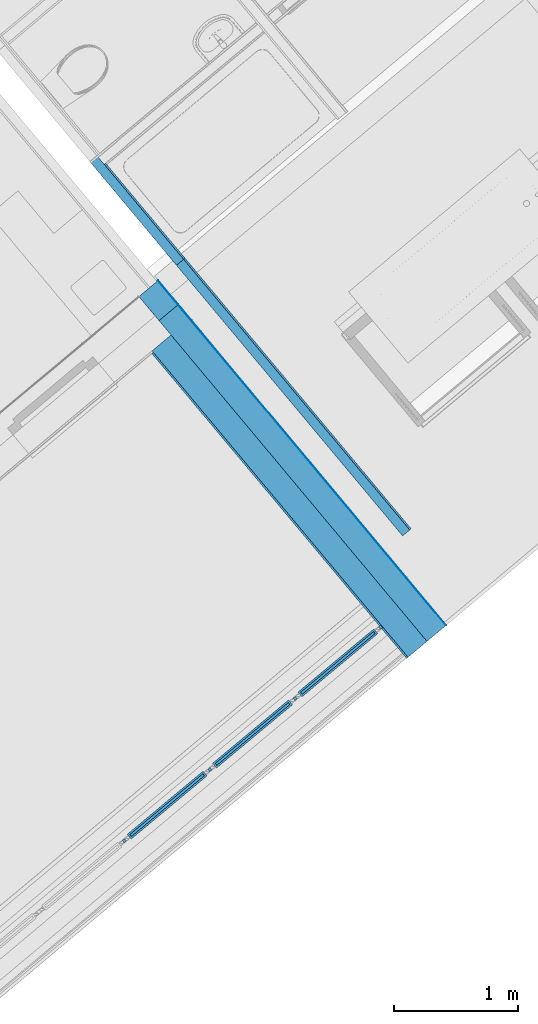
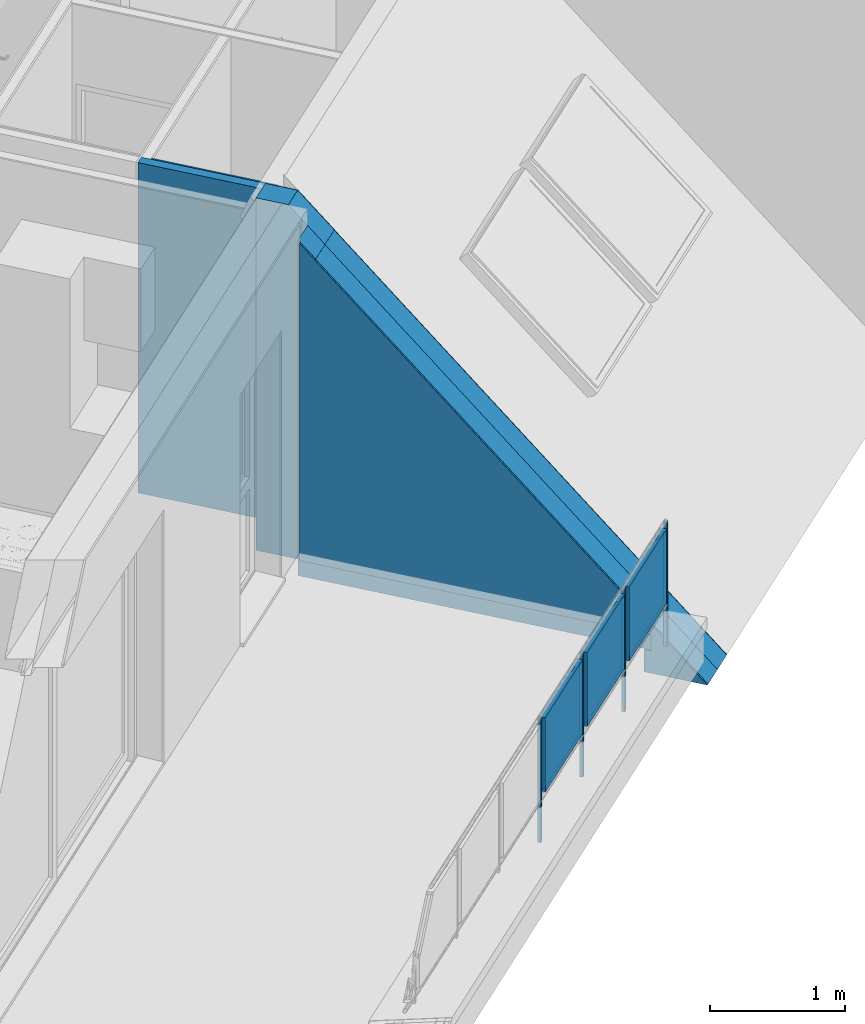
# One storey, part 16 of 47: 16 building element parts, 3 elements without a shape of their own.
"""IFC4 building model written with IfcOpenShell, lengths in metres."""

from ifc_helpers import new_model, entity, si_unit, converted_unit, derived_unit, direction, frame, origin_with_axes, place, context, subcontext, project, spatial, polygons, material, type_object, element, aggregate, save


model = new_model("IFC4")

# Units and contexts
model_context = context("Model", 3, precision=1e-05, world=origin_with_axes(), true_north=direction((0.0, 1.0)))
body_context = subcontext(model_context, "Body", "Model", "MODEL_VIEW")
ifc_project = project(units=[si_unit("LENGTHUNIT", "METRE"), si_unit("AREAUNIT", "SQUARE_METRE"), si_unit("VOLUMEUNIT", "CUBIC_METRE"), converted_unit("PLANEANGLEUNIT", "DEGREE", entity("IfcPlaneAngleMeasure", 0.0174532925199), si_unit("PLANEANGLEUNIT", "RADIAN"), dimensions=[0, 0, 0, 0, 0, 0, 0]), converted_unit("TIMEUNIT", "Year", entity("IfcTimeMeasure", 31556926.0), si_unit("TIMEUNIT", "SECOND"), dimensions=[0, 0, 1, 0, 0, 0, 0]), si_unit("MASSUNIT", "GRAM", prefix="KILO"), si_unit("THERMODYNAMICTEMPERATUREUNIT", "DEGREE_CELSIUS"), si_unit("LUMINOUSINTENSITYUNIT", "LUMEN"), si_unit("ENERGYUNIT", "JOULE", prefix="MEGA"), derived_unit("THERMALCONDUCTANCEUNIT", [(si_unit("POWERUNIT", "WATT"), 1), (si_unit("LENGTHUNIT", "METRE"), -1), (si_unit("THERMODYNAMICTEMPERATUREUNIT", "KELVIN"), -1)]), derived_unit("SPECIFICHEATCAPACITYUNIT", [(si_unit("ENERGYUNIT", "JOULE"), 1), (si_unit("MASSUNIT", "GRAM", prefix="KILO"), -1), (si_unit("THERMODYNAMICTEMPERATUREUNIT", "KELVIN"), -1)]), derived_unit("MASSDENSITYUNIT", [(si_unit("MASSUNIT", "GRAM", prefix="KILO"), 1), (si_unit("VOLUMEUNIT", "CUBIC_METRE"), -1)])], contexts=[model_context])

# Site, building, storey
site_placement = place(None, frame((-0.00153261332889, -0.00661245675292, 0.0), z_axis=(0.0, 0.0, 1.0), x_axis=(1.0, 0.0, 0.0)))
site = spatial("IfcSite", under=ifc_project, at=site_placement, Name="Site", CompositionType="ELEMENT")
building_placement = place(site_placement, origin_with_axes())
building = spatial("IfcBuilding", under=site, at=building_placement, Name="Building", CompositionType="ELEMENT")
storey_placement = place(building_placement, frame((0.0, 0.0, 8.66), z_axis=(0.0, 0.0, 1.0), x_axis=(1.0, 0.0, 0.0)))
storey = spatial("IfcBuildingStorey", under=building, at=storey_placement, Name="DG2", CompositionType="ELEMENT", Elevation=8.66)

# Wall, building element parts
wall_type_1 = type_object("IfcWallType", Name="AW EG 420", PredefinedType="NOTDEFINED")
wall_1_placement = place(storey_placement, frame((2.45868563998, 17.3922711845, -0.2), z_axis=(0.0, 0.0, 1.0), x_axis=(0.641214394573, -0.76736177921, 0.0)))
wall_1 = element("IfcWall", 1, at=wall_1_placement, inside=storey, type_object=wall_type_1, Name="Wand-002", PredefinedType="NOTDEFINED")
ifc_material_1 = material(Name="Zementputz")
building_element_part_1_placement = place(wall_1_placement, origin_with_axes())
building_element_part_1 = element("IfcBuildingElementPart", 2, at=building_element_part_1_placement, material=ifc_material_1, Name="Zementputz", PredefinedType="NOTDEFINED", context=body_context, shape_type="Tessellation", body=[
    polygons([(0.122189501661, 0.42, 3.0917140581), (0.122189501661, 0.42, 3.08944655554), (3.21163652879, 0.42, 0.0), (2.71272646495, 0.42, 0.0), (2.71272646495, 0.42, 0.2), (0.0, 0.42, 0.2), (-0.420270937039, 0.42, 0.2), (-0.420270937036, 0.42, 3.38), (-0.166096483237, 0.42, 3.38), (0.12219263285, 0.415, 3.09171365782), (0.12219263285, 0.415, 3.089446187), (3.21163929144, 0.415, 0.0), (2.71272968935, 0.415, 0.0), (2.71272968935, 0.415, 0.2), (0.0, 0.415, 0.2), (-0.420267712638, 0.415, 0.2), (-0.420267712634, 0.415, 3.38), (-0.166093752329, 0.415, 3.38)], [[[1, 2, 3, 4, 5, 6, 7, 8, 9]], [[2, 1, 10, 11]], [[12, 3, 2, 11]], [[3, 12, 13, 4]], [[4, 13, 14, 5]], [[5, 14, 15, 6]], [[15, 16, 7, 6]], [[16, 17, 8, 7]], [[8, 17, 18, 9]], [[10, 1, 9, 18]], [[11, 10, 18, 17, 16, 15, 14, 13, 12]]], closed=True),
])
ifc_material_2 = material(Name="Stahlbeton Wand")
building_element_part_2_placement = place(wall_1_placement, origin_with_axes())
building_element_part_2 = element("IfcBuildingElementPart", 3, at=building_element_part_2_placement, material=ifc_material_2, Name="Stahlbeton Wand", PredefinedType="NOTDEFINED", context=body_context, shape_type="Tessellation", body=[
    polygons([(0.12219263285, 0.415, 3.09171365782), (0.12219263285, 0.415, 3.089446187), (3.21163929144, 0.415, 0.0), (2.71272968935, 0.415, 0.0), (2.71272968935, 0.415, 0.2), (0.0, 0.415, 0.2), (-0.420267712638, 0.415, 0.2), (-0.420267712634, 0.415, 3.38), (-0.166093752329, 0.415, 3.38), (0.122317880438, 0.215, 3.09169764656), (0.122317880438, 0.215, 3.08943144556), (3.21174979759, 0.215, 0.0), (2.7128586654, 0.215, 0.0), (2.7128586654, 0.215, 0.2), (0.0, 0.215, 0.2), (-0.420138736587, 0.215, 0.2), (-0.420138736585, 0.215, 3.38), (-0.165984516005, 0.215, 3.38)], [[[1, 2, 3, 4, 5, 6, 7, 8, 9]], [[2, 1, 10, 11]], [[12, 3, 2, 11]], [[3, 12, 13, 4]], [[4, 13, 14, 5]], [[5, 14, 15, 6]], [[15, 16, 7, 6]], [[16, 17, 8, 7]], [[8, 17, 18, 9]], [[10, 1, 9, 18]], [[11, 10, 18, 17, 16, 15, 14, 13, 12]]], closed=True),
])
ifc_material_3 = material(Name="EPS 1")
building_element_part_3_placement = place(wall_1_placement, origin_with_axes())
building_element_part_3 = element("IfcBuildingElementPart", 4, at=building_element_part_3_placement, material=ifc_material_3, Name="EPS 1", PredefinedType="NOTDEFINED", context=body_context, shape_type="Tessellation", body=[
    polygons([(-0.165984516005, 0.215, 3.38), (-0.420138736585, 0.215, 3.38), (-0.420138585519, 0.214765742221, 3.38), (-0.165984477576, 0.214929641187, 3.38), (-0.0568807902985, 0.215, 3.27089629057), (-0.0568807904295, 0.215, 0.2), (-0.420138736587, 0.215, 0.2), (-0.420138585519, 0.214765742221, 0.2)], [[[1, 2, 3, 4]], [[2, 1, 5, 6, 7]], [[7, 8, 3, 2]], [[8, 6, 5, 4, 3]], [[4, 5, 1]], [[7, 6, 8]]], closed=True),
    polygons([(0.122317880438, 0.215, 3.09169764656), (0.122317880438, 0.215, 3.08943144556), (3.21174979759, 0.215, 0.0), (2.7128586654, 0.215, 0.0), (2.7128586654, 0.215, 0.2), (0.0, 0.215, 0.2), (-0.0151386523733, 0.215, 0.2), (-0.0151386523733, 0.215, 3.22915415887), (0.122443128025, 0.015, 3.0916816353), (0.122443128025, 0.015, 3.08941670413), (3.21186446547, 0.0149999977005, -4.16173592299e-06), (2.71298764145, 0.015, 0.0), (2.71298764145, 0.015, 0.2), (0.0, 0.015, 0.2), (-0.0150096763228, 0.015, 0.2), (-0.0150096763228, 0.015, 3.22913441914)], [[[1, 2, 3, 4, 5, 6, 7, 8]], [[2, 1, 9, 10]], [[11, 3, 2, 10]], [[3, 11, 12, 4]], [[4, 12, 13, 5]], [[5, 13, 14, 6]], [[14, 15, 7, 6]], [[16, 8, 7, 15]], [[9, 1, 8, 16]], [[10, 9, 16, 15, 14, 13, 12, 11]]], closed=True),
])
building_element_part_4_placement = place(wall_1_placement, origin_with_axes())
building_element_part_4 = element("IfcBuildingElementPart", 5, at=building_element_part_4_placement, material=ifc_material_1, Name="Zementputz", PredefinedType="NOTDEFINED", context=body_context, shape_type="Tessellation", body=[
    polygons([(0.122443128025, 0.015, 3.0916816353), (0.122443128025, 0.015, 3.08941670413), (3.21186030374, 0.015, 0.0), (2.71298764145, 0.015, 0.0), (2.71298764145, 0.015, 0.2), (2.76798765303, 0.015, 0.2), (2.76798765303, 0.015, 0.35), (-9.6732037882e-06, 0.015, 0.35), (-9.6732037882e-06, 0.015, 3.21413441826), (0.122452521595, 0.0, 3.09168043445), (0.122452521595, 0.0, 3.08941559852), (3.21186860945, 0.0, -1.77560259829e-08), (2.71299731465, 0.0, 0.0), (2.71299731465, 0.0, 0.2), (2.76799732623, 0.0, 0.2), (2.76799732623, 0.0, 0.35), (0.0, 0.0, 0.35), (0.0, 0.0, 3.21413293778)], [[[1, 2, 3, 4, 5, 6, 7, 8, 9]], [[2, 1, 10, 11]], [[12, 3, 2, 11]], [[3, 12, 13, 4]], [[5, 4, 13, 14]], [[5, 14, 15, 6]], [[6, 15, 16, 7]], [[7, 16, 17, 8]], [[17, 18, 9, 8]], [[10, 1, 9, 18]], [[11, 10, 18, 17, 16, 15, 14, 13, 12]]], closed=True),
])
aggregate(wall_1, [building_element_part_1, building_element_part_2, building_element_part_3, building_element_part_4])

wall_type_2 = type_object("IfcWallType", Name="LB 9,0 cm einfache Vorsatzschale  90", PredefinedType="NOTDEFINED")
wall_2_placement = place(storey_placement, frame((4.55522790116, 15.9750989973, 0.0), z_axis=(0.0, 0.0, 1.0), x_axis=(-0.641209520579, 0.767365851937, 0.0)))
wall_2 = element("IfcWall", 6, at=wall_2_placement, inside=storey, type_object=wall_type_2, Name="Wand-006", PredefinedType="NOTDEFINED")
ifc_material_4 = material(Name="Mineralwolle weich")
building_element_part_5_placement = place(wall_2_placement, origin_with_axes())
building_element_part_5 = element("IfcBuildingElementPart", 7, at=building_element_part_5_placement, material=ifc_material_4, Name="Mineralwolle weich", PredefinedType="NOTDEFINED", context=body_context, shape_type="Tessellation", body=[
    polygons([(2.8510800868, 0.015, 2.98), (2.8510800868, 0.015, 2.85108792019), (-4.1342974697e-06, 0.0149999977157, 4.13429810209e-06), (3.92736578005, 0.015, 0.0), (3.92736578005, 0.015, 2.98), (2.85130138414, 0.09, 2.98), (2.85130138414, 0.09, 2.85135065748), (0.0, 0.09, 4.97085821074e-05), (0.0, 0.09, 0.0), (3.92739894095, 0.09, 0.0), (3.92739894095, 0.09, 2.98)], [[[1, 2, 3, 4, 5]], [[2, 1, 6, 7]], [[8, 3, 2, 7]], [[4, 3, 9, 10]], [[5, 4, 10, 11]], [[6, 1, 5, 11]], [[7, 6, 11, 10, 9, 8]], [[3, 8, 9]]], closed=True),
])
ifc_material_5 = material(Name="Gipskarton")
building_element_part_6_placement = place(wall_2_placement, origin_with_axes())
building_element_part_6 = element("IfcBuildingElementPart", 8, at=building_element_part_6_placement, material=ifc_material_5, Name="Gipskarton", PredefinedType="NOTDEFINED", context=body_context, shape_type="Tessellation", body=[
    polygons([(3.85235914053, 0.0, 0.0), (3.85236577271, 0.015, 0.0), (3.85236577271, 0.015, 2.98), (3.85235914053, 0.0, 2.98), (9.70048752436e-09, 0.0, -9.70048930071e-09), (0.0, 0.015, 8.26859620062e-06), (2.8510800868, 0.015, 2.98), (2.8510800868, 0.015, 2.85108792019), (2.85103582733, 0.0, 2.98), (2.85103582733, 0.0, 2.85103537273)], [[[1, 2, 3, 4]], [[2, 1, 5, 6]], [[7, 3, 2, 6, 8]], [[3, 7, 9, 4]], [[1, 4, 9, 10, 5]], [[10, 8, 6, 5]], [[7, 8, 10, 9]]], closed=True),
])
aggregate(wall_2, [building_element_part_5, building_element_part_6])

# Railing, building element parts
railing_type = type_object("IfcRailingType", Name="Geländerart", PredefinedType="NOTDEFINED")
railing_placement = place(storey_placement, frame((-3.01466342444, 12.8116891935, 0.38), z_axis=(0.0, 0.0, 1.0), x_axis=(1.0, 0.0, 0.0)))
railing = element("IfcRailing", 9, at=railing_placement, inside=storey, type_object=railing_type, Name="Geländer - 001", PredefinedType="NOTDEFINED")
ifc_material_6 = material(Name="Aluminium")
building_element_part_7_placement = place(railing_placement, origin_with_axes())
building_element_part_7 = element("IfcBuildingElementPart", 10, at=building_element_part_7_placement, material=ifc_material_6, Name="Aluminium", PredefinedType="NOTDEFINED", context=body_context, shape_type="Tessellation", body=[
    polygons([(7.34033246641, 2.36563783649, -0.3), (7.32433354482, 2.38484810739, -0.3), (7.32433354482, 2.38484810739, 0.82), (7.34033246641, 2.36563783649, 0.82), (7.32112219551, 2.34963891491, -0.3), (7.30512327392, 2.36884918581, -0.3), (7.30512327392, 2.36884918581, 0.82), (7.32112219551, 2.34963891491, 0.82)], [[[1, 2, 3, 4]], [[1, 5, 6, 2]], [[2, 6, 7, 3]], [[4, 3, 7, 8]], [[5, 1, 4, 8]], [[6, 5, 8, 7]]], closed=True),
])
building_element_part_8_placement = place(railing_placement, origin_with_axes())
building_element_part_8 = element("IfcBuildingElementPart", 11, at=building_element_part_8_placement, material=ifc_material_6, Name="Aluminium", PredefinedType="NOTDEFINED", context=body_context, shape_type="Tessellation", body=[
    polygons([(5.26964400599, 0.641102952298, -0.3), (5.25364508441, 0.6603132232, -0.3), (5.25364508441, 0.6603132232, 0.82), (5.26964400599, 0.641102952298, 0.82), (5.25043373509, 0.625104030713, -0.3), (5.23443481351, 0.644314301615, -0.3), (5.23443481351, 0.644314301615, 0.82), (5.25043373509, 0.625104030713, 0.82)], [[[1, 2, 3, 4]], [[1, 5, 6, 2]], [[2, 6, 7, 3]], [[4, 3, 7, 8]], [[5, 1, 4, 8]], [[6, 5, 8, 7]]], closed=True),
])
ifc_material_7 = material(Name="Profilit")
building_element_part_9_placement = place(railing_placement, origin_with_axes())
building_element_part_9 = element("IfcBuildingElementPart", 12, at=building_element_part_9_placement, material=ifc_material_7, Name="Profilit", PredefinedType="NOTDEFINED", context=body_context, shape_type="Tessellation", body=[
    polygons([(5.88592262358, 1.18364050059, 0.135), (5.29558654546, 0.691989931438, 0.135), (5.29558654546, 0.691989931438, 0.775), (5.88592262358, 1.18364050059, 0.775), (5.30838568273, 0.676621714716, 0.135), (5.89872176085, 1.16827228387, 0.135), (5.30838568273, 0.676621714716, 0.775), (5.89872176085, 1.16827228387, 0.775)], [[[1, 2, 3, 4]], [[5, 2, 1, 6]], [[7, 3, 2, 5]], [[4, 3, 7, 8]], [[1, 4, 8, 6]], [[7, 5, 6, 8]]], closed=True),
])
building_element_part_10_placement = place(railing_placement, origin_with_axes())
building_element_part_10 = element("IfcBuildingElementPart", 13, at=building_element_part_10_placement, material=ifc_material_6, Name="Aluminium", PredefinedType="NOTDEFINED", context=body_context, shape_type="Tessellation", body=[
    polygons([(5.365701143, 0.740623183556, 0.12), (5.41948990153, 0.785420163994, 0.12), (5.41948990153, 0.785420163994, 0.095), (5.365701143, 0.740623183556, 0.095), (5.36890092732, 0.736781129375, 0.12), (5.42268968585, 0.781578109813, 0.12), (5.42268968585, 0.781578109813, 0.095), (5.36890092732, 0.736781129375, 0.095)], [[[1, 2, 3, 4]], [[5, 6, 2, 1]], [[2, 6, 7, 3]], [[4, 3, 7, 8]], [[1, 4, 8, 5]], [[8, 7, 6, 5]]], closed=True),
    polygons([(5.82540737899, 1.12348108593, 0.79), (5.77161862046, 1.0786841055, 0.79), (5.77161862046, 1.0786841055, 0.795), (5.82540737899, 1.12348108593, 0.795), (5.8286071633, 1.11963903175, 0.79), (5.77481840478, 1.07484205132, 0.79), (5.77481840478, 1.07484205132, 0.795), (5.8286071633, 1.11963903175, 0.795)], [[[1, 2, 3, 4]], [[5, 6, 2, 1]], [[2, 6, 7, 3]], [[4, 3, 7, 8]], [[1, 4, 8, 5]], [[8, 7, 6, 5]]], closed=True),
    polygons([(5.30645887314, 0.655496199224, 0.12), (5.27446102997, 0.693916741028, 0.12), (5.88784943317, 1.20476601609, 0.12), (5.91984727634, 1.16634547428, 0.12), (5.32182708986, 0.668295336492, 0.14), (5.31222773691, 0.679821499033, 0.14), (5.30838568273, 0.676621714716, 0.135), (5.29558654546, 0.691989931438, 0.135), (5.29942859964, 0.695189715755, 0.14), (5.28982924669, 0.706715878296, 0.14), (5.87248121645, 1.19196687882, 0.14), (5.87248121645, 1.19196687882, 0.77), (5.28982924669, 0.706715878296, 0.77), (5.28982924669, 0.706715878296, 0.14), (5.27446102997, 0.693916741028, 0.12), (5.27446102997, 0.693916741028, 0.79), (5.88784943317, 1.20476601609, 0.79), (5.91984727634, 1.16634547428, 0.79), (5.30645887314, 0.655496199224, 0.79), (5.30645887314, 0.655496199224, 0.12), (5.32182708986, 0.668295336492, 0.14), (5.32182708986, 0.668295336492, 0.77), (5.90447905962, 1.15354633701, 0.77), (5.90447905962, 1.15354633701, 0.14), (5.89487970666, 1.16507249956, 0.14), (5.89487970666, 1.16507249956, 0.77), (5.31222773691, 0.679821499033, 0.77), (5.31222773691, 0.679821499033, 0.14), (5.30838568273, 0.676621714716, 0.135), (5.30838568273, 0.676621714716, 0.775), (5.89872176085, 1.16827228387, 0.775), (5.89872176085, 1.16827228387, 0.135), (5.88592262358, 1.18364050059, 0.135), (5.88592262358, 1.18364050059, 0.775), (5.29558654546, 0.691989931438, 0.775), (5.29558654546, 0.691989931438, 0.135), (5.29942859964, 0.695189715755, 0.14), (5.29942859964, 0.695189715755, 0.77), (5.8820805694, 1.18044071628, 0.77), (5.8820805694, 1.18044071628, 0.14)], [[[1, 2, 3, 4]], [[1, 5, 6, 7, 8, 9, 10, 2]], [[2, 10, 11, 12, 13, 14, 15, 16, 17, 3]], [[4, 3, 17, 18]], [[5, 1, 4, 18, 19, 20, 21, 22, 23, 24]], [[6, 5, 24, 25]], [[7, 6, 25, 26, 27, 28, 29, 30, 31, 32]], [[8, 7, 32, 33]], [[9, 8, 33, 34, 35, 36, 37, 38, 39, 40]], [[10, 9, 40, 11]], [[11, 40, 39, 12]], [[12, 39, 38, 13]], [[13, 38, 37, 14]], [[20, 15, 14, 37, 36, 29, 28, 21]], [[19, 16, 15, 20]], [[18, 17, 16, 19]], [[27, 22, 21, 28]], [[26, 23, 22, 27]], [[25, 24, 23, 26]], [[35, 30, 29, 36]], [[34, 31, 30, 35]], [[33, 32, 31, 34]]], closed=True),
])
building_element_part_11_placement = place(railing_placement, origin_with_axes())
building_element_part_11 = element("IfcBuildingElementPart", 14, at=building_element_part_11_placement, material=ifc_material_6, Name="Aluminium", PredefinedType="NOTDEFINED", context=body_context, shape_type="Tessellation", body=[
    polygons([(5.9598734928, 1.2159479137, -0.3), (5.94387457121, 1.2351581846, -0.3), (5.94387457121, 1.2351581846, 0.82), (5.9598734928, 1.2159479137, 0.82), (5.9406632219, 1.19994899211, -0.3), (5.92466430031, 1.21915926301, -0.3), (5.92466430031, 1.21915926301, 0.82), (5.9406632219, 1.19994899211, 0.82)], [[[1, 2, 3, 4]], [[1, 5, 6, 2]], [[2, 6, 7, 3]], [[4, 3, 7, 8]], [[5, 1, 4, 8]], [[6, 5, 8, 7]]], closed=True),
])
building_element_part_12_placement = place(railing_placement, origin_with_axes())
building_element_part_12 = element("IfcBuildingElementPart", 15, at=building_element_part_12_placement, material=ifc_material_7, Name="Profilit", PredefinedType="NOTDEFINED", context=body_context, shape_type="Tessellation", body=[
    polygons([(6.57615211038, 1.75848546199, 0.135), (5.98581603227, 1.26683489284, 0.135), (5.98581603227, 1.26683489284, 0.775), (6.57615211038, 1.75848546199, 0.775), (5.99861516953, 1.25146667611, 0.135), (6.58895124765, 1.74311724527, 0.135), (5.99861516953, 1.25146667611, 0.775), (6.58895124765, 1.74311724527, 0.775)], [[[1, 2, 3, 4]], [[5, 2, 1, 6]], [[7, 3, 2, 5]], [[4, 3, 7, 8]], [[1, 4, 8, 6]], [[7, 5, 6, 8]]], closed=True),
])
building_element_part_13_placement = place(railing_placement, origin_with_axes())
building_element_part_13 = element("IfcBuildingElementPart", 16, at=building_element_part_13_placement, material=ifc_material_6, Name="Aluminium", PredefinedType="NOTDEFINED", context=body_context, shape_type="Tessellation", body=[
    polygons([(6.05593062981, 1.31546814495, 0.12), (6.10971938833, 1.36026512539, 0.12), (6.10971938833, 1.36026512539, 0.095), (6.05593062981, 1.31546814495, 0.095), (6.05913041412, 1.31162609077, 0.12), (6.11291917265, 1.35642307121, 0.12), (6.11291917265, 1.35642307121, 0.095), (6.05913041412, 1.31162609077, 0.095)], [[[1, 2, 3, 4]], [[5, 6, 2, 1]], [[2, 6, 7, 3]], [[4, 3, 7, 8]], [[1, 4, 8, 5]], [[8, 7, 6, 5]]], closed=True),
    polygons([(6.51563686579, 1.69832604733, 0.79), (6.46184810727, 1.6535290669, 0.79), (6.46184810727, 1.6535290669, 0.795), (6.51563686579, 1.69832604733, 0.795), (6.51883665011, 1.69448399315, 0.79), (6.46504789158, 1.64968701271, 0.79), (6.46504789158, 1.64968701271, 0.795), (6.51883665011, 1.69448399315, 0.795)], [[[1, 2, 3, 4]], [[5, 6, 2, 1]], [[2, 6, 7, 3]], [[4, 3, 7, 8]], [[1, 4, 8, 5]], [[8, 7, 6, 5]]], closed=True),
    polygons([(5.99668835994, 1.23034116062, 0.12), (5.96469051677, 1.26876170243, 0.12), (6.57807891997, 1.77961097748, 0.12), (6.61007676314, 1.74119043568, 0.12), (6.01205657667, 1.24314029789, 0.14), (6.00245722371, 1.25466646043, 0.14), (5.99861516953, 1.25146667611, 0.135), (5.98581603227, 1.26683489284, 0.135), (5.98965808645, 1.27003467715, 0.14), (5.9800587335, 1.28156083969, 0.14), (6.56271070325, 1.76681184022, 0.14), (6.56271070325, 1.76681184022, 0.77), (5.9800587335, 1.28156083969, 0.77), (5.9800587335, 1.28156083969, 0.14), (5.96469051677, 1.26876170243, 0.12), (5.96469051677, 1.26876170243, 0.79), (6.57807891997, 1.77961097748, 0.79), (6.61007676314, 1.74119043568, 0.79), (5.99668835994, 1.23034116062, 0.79), (5.99668835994, 1.23034116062, 0.12), (6.01205657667, 1.24314029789, 0.14), (6.01205657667, 1.24314029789, 0.77), (6.59470854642, 1.72839129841, 0.77), (6.59470854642, 1.72839129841, 0.14), (6.58510919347, 1.73991746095, 0.14), (6.58510919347, 1.73991746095, 0.77), (6.00245722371, 1.25466646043, 0.77), (6.00245722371, 1.25466646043, 0.14), (5.99861516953, 1.25146667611, 0.135), (5.99861516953, 1.25146667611, 0.775), (6.58895124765, 1.74311724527, 0.775), (6.58895124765, 1.74311724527, 0.135), (6.57615211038, 1.75848546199, 0.135), (6.57615211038, 1.75848546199, 0.775), (5.98581603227, 1.26683489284, 0.775), (5.98581603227, 1.26683489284, 0.135), (5.98965808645, 1.27003467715, 0.14), (5.98965808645, 1.27003467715, 0.77), (6.5723100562, 1.75528567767, 0.77), (6.5723100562, 1.75528567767, 0.14)], [[[1, 2, 3, 4]], [[1, 5, 6, 7, 8, 9, 10, 2]], [[2, 10, 11, 12, 13, 14, 15, 16, 17, 3]], [[4, 3, 17, 18]], [[5, 1, 4, 18, 19, 20, 21, 22, 23, 24]], [[6, 5, 24, 25]], [[7, 6, 25, 26, 27, 28, 29, 30, 31, 32]], [[8, 7, 32, 33]], [[9, 8, 33, 34, 35, 36, 37, 38, 39, 40]], [[10, 9, 40, 11]], [[11, 40, 39, 12]], [[12, 39, 38, 13]], [[13, 38, 37, 14]], [[20, 15, 14, 37, 36, 29, 28, 21]], [[19, 16, 15, 20]], [[18, 17, 16, 19]], [[27, 22, 21, 28]], [[26, 23, 22, 27]], [[25, 24, 23, 26]], [[35, 30, 29, 36]], [[34, 31, 30, 35]], [[33, 32, 31, 34]]], closed=True),
])
building_element_part_14_placement = place(railing_placement, origin_with_axes())
building_element_part_14 = element("IfcBuildingElementPart", 17, at=building_element_part_14_placement, material=ifc_material_6, Name="Aluminium", PredefinedType="NOTDEFINED", context=body_context, shape_type="Tessellation", body=[
    polygons([(6.6501029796, 1.79079287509, -0.3), (6.63410405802, 1.810003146, -0.3), (6.63410405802, 1.810003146, 0.82), (6.6501029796, 1.79079287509, 0.82), (6.6308927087, 1.77479395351, -0.3), (6.61489378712, 1.79400422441, -0.3), (6.61489378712, 1.79400422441, 0.82), (6.6308927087, 1.77479395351, 0.82)], [[[1, 2, 3, 4]], [[1, 5, 6, 2]], [[2, 6, 7, 3]], [[4, 3, 7, 8]], [[5, 1, 4, 8]], [[6, 5, 8, 7]]], closed=True),
])
building_element_part_15_placement = place(railing_placement, origin_with_axes())
building_element_part_15 = element("IfcBuildingElementPart", 18, at=building_element_part_15_placement, material=ifc_material_7, Name="Profilit", PredefinedType="NOTDEFINED", context=body_context, shape_type="Tessellation", body=[
    polygons([(7.26638159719, 2.33333042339, 0.135), (6.67604551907, 1.84167985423, 0.135), (6.67604551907, 1.84167985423, 0.775), (7.26638159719, 2.33333042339, 0.775), (6.68884465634, 1.82631163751, 0.135), (7.27918073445, 2.31796220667, 0.135), (6.68884465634, 1.82631163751, 0.775), (7.27918073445, 2.31796220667, 0.775)], [[[1, 2, 3, 4]], [[5, 2, 1, 6]], [[7, 3, 2, 5]], [[4, 3, 7, 8]], [[1, 4, 8, 6]], [[7, 5, 6, 8]]], closed=True),
])
building_element_part_16_placement = place(railing_placement, origin_with_axes())
building_element_part_16 = element("IfcBuildingElementPart", 19, at=building_element_part_16_placement, material=ifc_material_6, Name="Aluminium", PredefinedType="NOTDEFINED", context=body_context, shape_type="Tessellation", body=[
    polygons([(6.74616011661, 1.89031310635, 0.12), (6.79994887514, 1.93511008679, 0.12), (6.79994887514, 1.93511008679, 0.095), (6.74616011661, 1.89031310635, 0.095), (6.74935990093, 1.88647105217, 0.12), (6.80314865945, 1.93126803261, 0.12), (6.80314865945, 1.93126803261, 0.095), (6.74935990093, 1.88647105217, 0.095)], [[[1, 2, 3, 4]], [[5, 6, 2, 1]], [[2, 6, 7, 3]], [[4, 3, 7, 8]], [[1, 4, 8, 5]], [[8, 7, 6, 5]]], closed=True),
    polygons([(7.2058663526, 2.27317100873, 0.79), (7.15207759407, 2.22837402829, 0.79), (7.15207759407, 2.22837402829, 0.795), (7.2058663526, 2.27317100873, 0.795), (7.20906613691, 2.26932895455, 0.79), (7.15527737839, 2.22453197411, 0.79), (7.15527737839, 2.22453197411, 0.795), (7.20906613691, 2.26932895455, 0.795)], [[[1, 2, 3, 4]], [[5, 6, 2, 1]], [[2, 6, 7, 3]], [[4, 3, 7, 8]], [[1, 4, 8, 5]], [[8, 7, 6, 5]]], closed=True),
    polygons([(6.68691784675, 1.80518612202, 0.12), (6.65492000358, 1.84360666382, 0.12), (7.26830840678, 2.35445593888, 0.12), (7.30030624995, 2.31603539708, 0.12), (6.70228606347, 1.81798525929, 0.14), (6.69268671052, 1.82951142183, 0.14), (6.68884465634, 1.82631163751, 0.135), (6.67604551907, 1.84167985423, 0.135), (6.67988757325, 1.84487963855, 0.14), (6.6702882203, 1.85640580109, 0.14), (7.25294019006, 2.34165680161, 0.14), (7.25294019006, 2.34165680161, 0.77), (6.6702882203, 1.85640580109, 0.77), (6.6702882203, 1.85640580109, 0.14), (6.65492000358, 1.84360666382, 0.12), (6.65492000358, 1.84360666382, 0.79), (7.26830840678, 2.35445593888, 0.79), (7.30030624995, 2.31603539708, 0.79), (6.68691784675, 1.80518612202, 0.79), (6.68691784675, 1.80518612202, 0.12), (6.70228606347, 1.81798525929, 0.14), (6.70228606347, 1.81798525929, 0.77), (7.28493803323, 2.30323625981, 0.77), (7.28493803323, 2.30323625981, 0.14), (7.27533868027, 2.31476242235, 0.14), (7.27533868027, 2.31476242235, 0.77), (6.69268671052, 1.82951142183, 0.77), (6.69268671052, 1.82951142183, 0.14), (6.68884465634, 1.82631163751, 0.135), (6.68884465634, 1.82631163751, 0.775), (7.27918073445, 2.31796220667, 0.775), (7.27918073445, 2.31796220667, 0.135), (7.26638159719, 2.33333042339, 0.135), (7.26638159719, 2.33333042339, 0.775), (6.67604551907, 1.84167985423, 0.775), (6.67604551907, 1.84167985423, 0.135), (6.67988757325, 1.84487963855, 0.14), (6.67988757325, 1.84487963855, 0.77), (7.26253954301, 2.33013063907, 0.77), (7.26253954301, 2.33013063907, 0.14)], [[[1, 2, 3, 4]], [[1, 5, 6, 7, 8, 9, 10, 2]], [[2, 10, 11, 12, 13, 14, 15, 16, 17, 3]], [[4, 3, 17, 18]], [[5, 1, 4, 18, 19, 20, 21, 22, 23, 24]], [[6, 5, 24, 25]], [[7, 6, 25, 26, 27, 28, 29, 30, 31, 32]], [[8, 7, 32, 33]], [[9, 8, 33, 34, 35, 36, 37, 38, 39, 40]], [[10, 9, 40, 11]], [[11, 40, 39, 12]], [[12, 39, 38, 13]], [[13, 38, 37, 14]], [[20, 15, 14, 37, 36, 29, 28, 21]], [[19, 16, 15, 20]], [[18, 17, 16, 19]], [[27, 22, 21, 28]], [[26, 23, 22, 27]], [[25, 24, 23, 26]], [[35, 30, 29, 36]], [[34, 31, 30, 35]], [[33, 32, 31, 34]]], closed=True),
])
aggregate(railing, [building_element_part_7, building_element_part_8, building_element_part_9, building_element_part_10, building_element_part_11, building_element_part_12, building_element_part_13, building_element_part_14, building_element_part_15, building_element_part_16])

save(model, "model.ifc")
